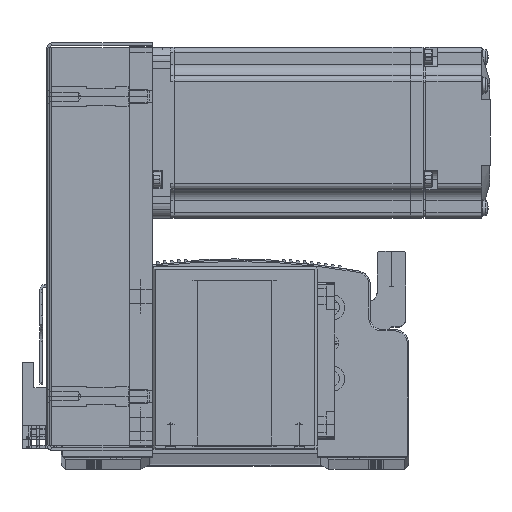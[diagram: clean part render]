
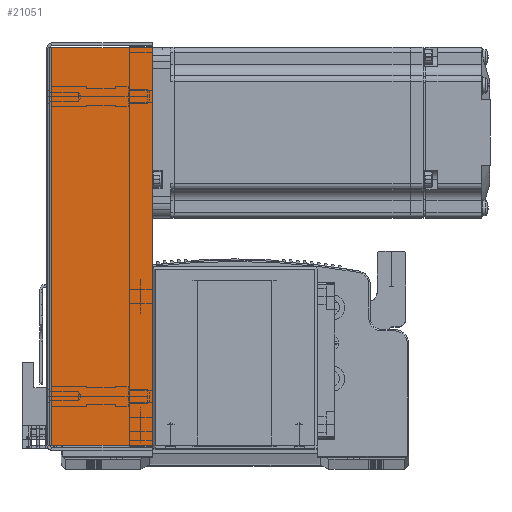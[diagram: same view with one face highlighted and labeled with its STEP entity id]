
A CAD part, top view. The second image highlights one B-rep face of the part: STEP entity #21051.
In plain terms, the highlighted planar face has unit normal (0, 0, 1) as drawn and (0, 0, -1) by its records, which use the part's own axes.
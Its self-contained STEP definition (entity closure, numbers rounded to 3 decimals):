
#8173 = FACE_OUTER_BOUND ( 'NONE', #93975, .T. ) ;
#21051 = ADVANCED_FACE ( 'NONE', ( #8173 ), #88082, .F. ) ;
#28197 = CARTESIAN_POINT ( 'NONE',  ( -69.793, 36., -33.5 ) ) ;
#28259 = CARTESIAN_POINT ( 'NONE',  ( 69.793, 36., -33.5 ) ) ;
#28283 = CARTESIAN_POINT ( 'NONE',  ( -69.793, 0.737, -33.5 ) ) ;
#28310 = CARTESIAN_POINT ( 'NONE',  ( 69.793, 0.737, -33.5 ) ) ;
#31338 = LINE ( 'NONE', #32625, #31390 ) ;
#31377 = VECTOR ( 'NONE', #32658, 1000. ) ;
#31390 = VECTOR ( 'NONE', #32651, 1000. ) ;
#31392 = LINE ( 'NONE', #32618, #31377 ) ;
#31414 = LINE ( 'NONE', #32765, #31429 ) ;
#31429 = VECTOR ( 'NONE', #32762, 1000. ) ;
#31494 = LINE ( 'NONE', #32920, #31495 ) ;
#31495 = VECTOR ( 'NONE', #32893, 1000. ) ;
#32618 = CARTESIAN_POINT ( 'NONE',  ( 0., 36., -33.5 ) ) ;
#32625 = CARTESIAN_POINT ( 'NONE',  ( -69.793, 0., -33.5 ) ) ;
#32651 = DIRECTION ( 'NONE',  ( 0., 1., 0. ) ) ;
#32658 = DIRECTION ( 'NONE',  ( 1., 0., 0. ) ) ;
#32762 = DIRECTION ( 'NONE',  ( 1., 0., 0. ) ) ;
#32765 = CARTESIAN_POINT ( 'NONE',  ( 71.5, 0.737, -33.5 ) ) ;
#32893 = DIRECTION ( 'NONE',  ( 0., 1., 0. ) ) ;
#32920 = CARTESIAN_POINT ( 'NONE',  ( 69.793, 0., -33.5 ) ) ;
#53645 = EDGE_CURVE ( 'NONE', #56293, #56205, #31338, .T. ) ;
#53649 = EDGE_CURVE ( 'NONE', #56205, #56315, #31392, .T. ) ;
#53679 = EDGE_CURVE ( 'NONE', #56293, #56287, #31414, .T. ) ;
#53728 = EDGE_CURVE ( 'NONE', #56287, #56315, #31494, .T. ) ;
#56205 = VERTEX_POINT ( 'NONE', #28197 ) ;
#56287 = VERTEX_POINT ( 'NONE', #28310 ) ;
#56293 = VERTEX_POINT ( 'NONE', #28283 ) ;
#56315 = VERTEX_POINT ( 'NONE', #28259 ) ;
#73420 = ORIENTED_EDGE ( 'NONE', *, *, #53728, .F. ) ;
#73432 = ORIENTED_EDGE ( 'NONE', *, *, #53645, .T. ) ;
#73473 = ORIENTED_EDGE ( 'NONE', *, *, #53649, .T. ) ;
#73490 = ORIENTED_EDGE ( 'NONE', *, *, #53679, .F. ) ;
#88082 = PLANE ( 'NONE',  #95866 ) ;
#88084 = CARTESIAN_POINT ( 'NONE',  ( 0., 0., -33.5 ) ) ;
#88090 = DIRECTION ( 'NONE',  ( 0., 0., 1. ) ) ;
#88092 = DIRECTION ( 'NONE',  ( 0., -1., 0. ) ) ;
#93975 = EDGE_LOOP ( 'NONE', ( #73490, #73432, #73473, #73420 ) ) ;
#95866 = AXIS2_PLACEMENT_3D ( 'NONE', #88084, #88090, #88092 ) ;
